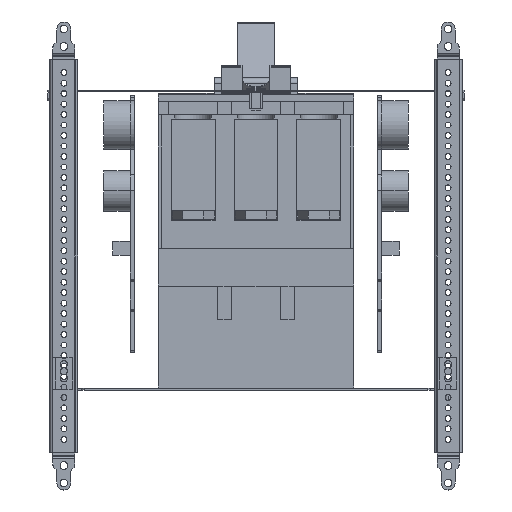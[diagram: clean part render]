
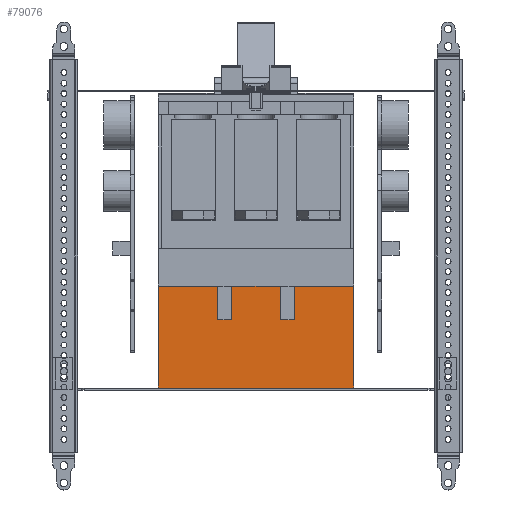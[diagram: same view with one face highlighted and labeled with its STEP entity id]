
A CAD part, left-side view. The second image highlights one B-rep face of the part: STEP entity #79076.
In plain terms, the highlighted planar face has unit normal (-1, 0, 0).
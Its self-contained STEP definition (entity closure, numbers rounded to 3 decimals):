
#76681=CARTESIAN_POINT(' ',(-152.261,73.033,-65.647));
#76682=VERTEX_POINT(' ',#76681);
#76696=CARTESIAN_POINT(' ',(-152.261,73.033,-65.647));
#76701=DIRECTION(' ',(0.,0.,1.));
#76706=VECTOR(' ',#76701,1.);
#76711=LINE('',#76696,#76706);
#76716=CARTESIAN_POINT(' ',(-152.261,73.033,7.353));
#76717=VERTEX_POINT(' ',#76716);
#76721=EDGE_CURVE(' ',#76682,#76717,#76711,.T.);
#77526=CARTESIAN_POINT(' ',(-152.261,-66.967,7.353));
#77527=VERTEX_POINT(' ',#77526);
#77541=CARTESIAN_POINT(' ',(-152.261,-66.967,-65.647));
#77546=DIRECTION(' ',(0.,0.,1.));
#77551=VECTOR(' ',#77546,1.);
#77556=LINE('',#77541,#77551);
#77561=CARTESIAN_POINT(' ',(-152.261,-66.967,-65.647));
#77562=VERTEX_POINT(' ',#77561);
#77566=EDGE_CURVE(' ',#77562,#77527,#77556,.T.);
#78666=CARTESIAN_POINT(' ',(-152.261,73.033,-65.647));
#78671=DIRECTION(' ',(0.,-1.,0.));
#78676=VECTOR(' ',#78671,1.);
#78681=LINE('',#78666,#78676);
#78686=EDGE_CURVE(' ',#76682,#77562,#78681,.T.);
#78716=DIRECTION(' ',(-1.,0.,0.));
#78721=CARTESIAN_POINT(' ',(-152.261,-66.967,7.353));
#78726=DIRECTION(' ',(0.,1.,0.));
#78731=AXIS2_PLACEMENT_3D(' ',#78721,#78716,#78726);
#78736=PLANE('NONE',#78731);
#78741=CARTESIAN_POINT(' ',(-152.261,-24.467,-16.647));
#78746=DIRECTION(' ',(0.,0.,1.));
#78751=VECTOR(' ',#78746,1.);
#78756=LINE('',#78741,#78751);
#78761=CARTESIAN_POINT(' ',(-152.261,-24.467,-16.647));
#78762=VERTEX_POINT(' ',#78761);
#78766=CARTESIAN_POINT(' ',(-152.261,-24.467,7.353));
#78767=VERTEX_POINT(' ',#78766);
#78771=EDGE_CURVE(' ',#78762,#78767,#78756,.T.);
#78776=ORIENTED_EDGE(' ',*,*,#78771,.F.);
#78781=CARTESIAN_POINT(' ',(-152.261,-14.467,-16.647));
#78786=DIRECTION(' ',(0.,-1.,0.));
#78791=VECTOR(' ',#78786,1.);
#78796=LINE('',#78781,#78791);
#78801=CARTESIAN_POINT(' ',(-152.261,-14.467,-16.647));
#78802=VERTEX_POINT(' ',#78801);
#78806=EDGE_CURVE(' ',#78802,#78762,#78796,.T.);
#78811=ORIENTED_EDGE(' ',*,*,#78806,.F.);
#78816=CARTESIAN_POINT(' ',(-152.261,-14.467,7.353));
#78821=DIRECTION(' ',(0.,0.,-1.));
#78826=VECTOR(' ',#78821,1.);
#78831=LINE('',#78816,#78826);
#78836=CARTESIAN_POINT(' ',(-152.261,-14.467,7.353));
#78837=VERTEX_POINT(' ',#78836);
#78841=EDGE_CURVE(' ',#78837,#78802,#78831,.T.);
#78846=ORIENTED_EDGE(' ',*,*,#78841,.F.);
#78851=CARTESIAN_POINT(' ',(-152.261,-14.467,7.353));
#78856=DIRECTION(' ',(0.,1.,0.));
#78861=VECTOR(' ',#78856,1.);
#78866=LINE('',#78851,#78861);
#78871=CARTESIAN_POINT(' ',(-152.261,20.533,7.353));
#78872=VERTEX_POINT(' ',#78871);
#78876=EDGE_CURVE(' ',#78837,#78872,#78866,.T.);
#78881=ORIENTED_EDGE(' ',*,*,#78876,.T.);
#78886=CARTESIAN_POINT(' ',(-152.261,20.533,-16.647));
#78891=DIRECTION(' ',(0.,0.,1.));
#78896=VECTOR(' ',#78891,1.);
#78901=LINE('',#78886,#78896);
#78906=CARTESIAN_POINT(' ',(-152.261,20.533,-16.647));
#78907=VERTEX_POINT(' ',#78906);
#78911=EDGE_CURVE(' ',#78907,#78872,#78901,.T.);
#78916=ORIENTED_EDGE(' ',*,*,#78911,.F.);
#78921=CARTESIAN_POINT(' ',(-152.261,30.533,-16.647));
#78926=DIRECTION(' ',(0.,-1.,0.));
#78931=VECTOR(' ',#78926,1.);
#78936=LINE('',#78921,#78931);
#78941=CARTESIAN_POINT(' ',(-152.261,30.533,-16.647));
#78942=VERTEX_POINT(' ',#78941);
#78946=EDGE_CURVE(' ',#78942,#78907,#78936,.T.);
#78951=ORIENTED_EDGE(' ',*,*,#78946,.F.);
#78956=CARTESIAN_POINT(' ',(-152.261,30.533,7.353));
#78961=DIRECTION(' ',(0.,0.,-1.));
#78966=VECTOR(' ',#78961,1.);
#78971=LINE('',#78956,#78966);
#78976=CARTESIAN_POINT(' ',(-152.261,30.533,7.353));
#78977=VERTEX_POINT(' ',#78976);
#78981=EDGE_CURVE(' ',#78977,#78942,#78971,.T.);
#78986=ORIENTED_EDGE(' ',*,*,#78981,.F.);
#78991=CARTESIAN_POINT(' ',(-152.261,73.033,7.353));
#78996=DIRECTION(' ',(0.,-1.,0.));
#79001=VECTOR(' ',#78996,1.);
#79006=LINE('',#78991,#79001);
#79011=EDGE_CURVE(' ',#76717,#78977,#79006,.T.);
#79016=ORIENTED_EDGE(' ',*,*,#79011,.F.);
#79021=ORIENTED_EDGE(' ',*,*,#76721,.F.);
#79026=ORIENTED_EDGE(' ',*,*,#78686,.T.);
#79031=ORIENTED_EDGE(' ',*,*,#77566,.T.);
#79036=CARTESIAN_POINT(' ',(-152.261,-24.467,7.353));
#79041=DIRECTION(' ',(0.,-1.,0.));
#79046=VECTOR(' ',#79041,1.);
#79051=LINE('',#79036,#79046);
#79056=EDGE_CURVE(' ',#78767,#77527,#79051,.T.);
#79061=ORIENTED_EDGE(' ',*,*,#79056,.F.);
#79066=EDGE_LOOP(' ',(#78776,#78811,#78846,#78881,#78916,#78951,#78986,#79016,#79021,#79026,#79031,#79061));
#79071=FACE_OUTER_BOUND(' ',#79066,.T.);
#79076=ADVANCED_FACE('NONE',(#79071),#78736,.T.);
